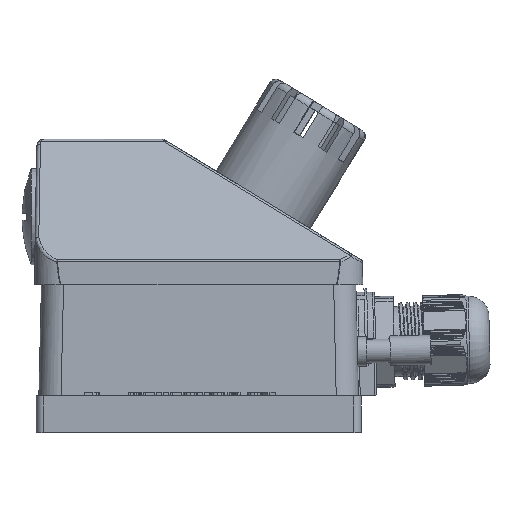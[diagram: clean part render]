
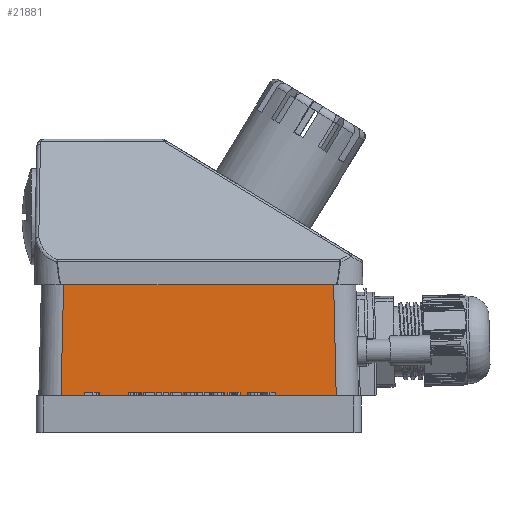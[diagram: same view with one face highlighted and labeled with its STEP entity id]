
A CAD part, left-side view. The second image highlights one B-rep face of the part: STEP entity #21881.
In plain terms, the highlighted planar face has unit normal (-1, 0, 0.023) as drawn and (-1, 0.023, 0) by its records, which use the part's own axes.
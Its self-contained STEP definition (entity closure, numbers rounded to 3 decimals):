
#495=PLANE('',#23304);
#1171=LINE('',#30906,#3068);
#1172=LINE('',#30908,#3069);
#1173=LINE('',#30910,#3070);
#1174=LINE('',#30911,#3071);
#3068=VECTOR('',#25265,1000.);
#3069=VECTOR('',#25266,1000.);
#3070=VECTOR('',#25267,1000.);
#3071=VECTOR('',#25268,1000.);
#6138=FACE_OUTER_BOUND('',#7413,.T.);
#7413=EDGE_LOOP('',(#15241,#15242,#15243,#15244));
#9434=VERTEX_POINT('',#30402);
#9587=VERTEX_POINT('',#30905);
#9588=VERTEX_POINT('',#30907);
#9589=VERTEX_POINT('',#30909);
#11817=EDGE_CURVE('',#9587,#9434,#1171,.T.);
#11818=EDGE_CURVE('',#9434,#9588,#1172,.T.);
#11819=EDGE_CURVE('',#9588,#9589,#1173,.T.);
#11820=EDGE_CURVE('',#9589,#9587,#1174,.T.);
#15241=ORIENTED_EDGE('',*,*,#11817,.T.);
#15242=ORIENTED_EDGE('',*,*,#11818,.T.);
#15243=ORIENTED_EDGE('',*,*,#11819,.T.);
#15244=ORIENTED_EDGE('',*,*,#11820,.T.);
#21881=ADVANCED_FACE('',(#6138),#495,.T.);
#23304=AXIS2_PLACEMENT_3D('',#30904,#25263,#25264);
#25263=DIRECTION('center_axis',(-1.,0.023,0.));
#25264=DIRECTION('ref_axis',(-0.023,-1.,0.));
#25265=DIRECTION('',(0.023,0.999,-0.023));
#25266=DIRECTION('',(0.,0.,-1.));
#25267=DIRECTION('',(-0.023,-0.999,-0.023));
#25268=DIRECTION('',(0.,0.,1.));
#30402=CARTESIAN_POINT('',(0.692,30.511,-6.691));
#30904=CARTESIAN_POINT('Origin',(0.,0.,-86.5));
#30905=CARTESIAN_POINT('',(0.,0.,-5.998));
#30906=CARTESIAN_POINT('',(0.041,1.825,-6.04));
#30907=CARTESIAN_POINT('',(0.692,30.511,-79.809));
#30908=CARTESIAN_POINT('',(0.692,30.511,-79.798));
#30909=CARTESIAN_POINT('',(0.,0.,-80.502));
#30910=CARTESIAN_POINT('',(-0.003,-0.136,-80.505));
#30911=CARTESIAN_POINT('',(0.,0.,-86.5));
